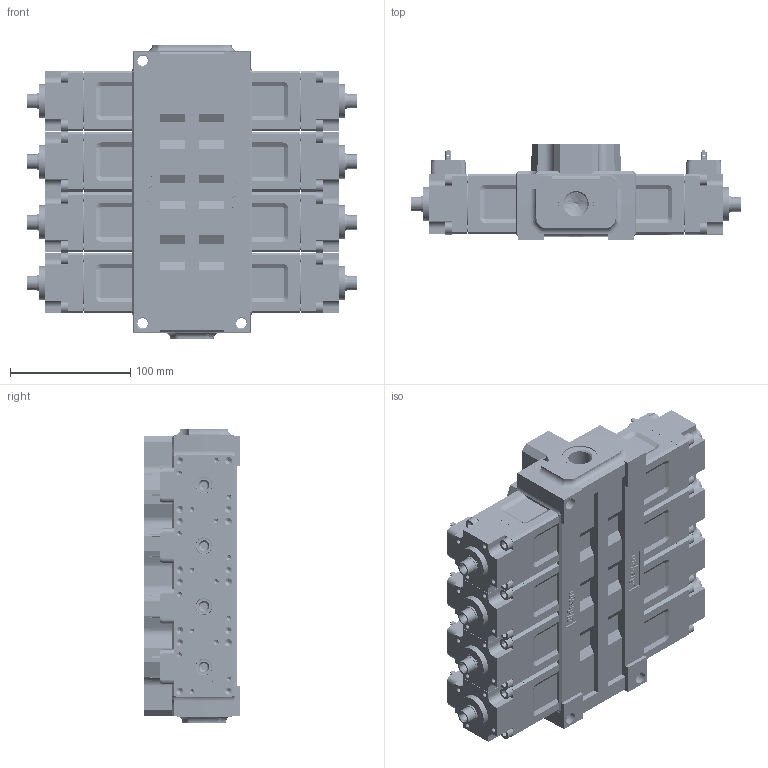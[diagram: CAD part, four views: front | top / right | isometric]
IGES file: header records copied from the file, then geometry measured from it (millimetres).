
Start section: SolidWorks IGES file using NURBS representation for surfaces
Global section: file name: C:\Users\stn\Desktop\S-98000.IGS; native system: SolidWorks 2011; preprocessor: SolidWorks 2011; author: stn; date: 130212.083402; units: millimetre
Bounding box: 274 x 80 x 244 mm (x, y, z)
Surface area: 423310.8 mm2 (no closed solid volume)
Topology: 0 solids, 0 shells, 4477 faces, 52643 edges, 52441 vertices
Faces by surface type: bspline 4477
